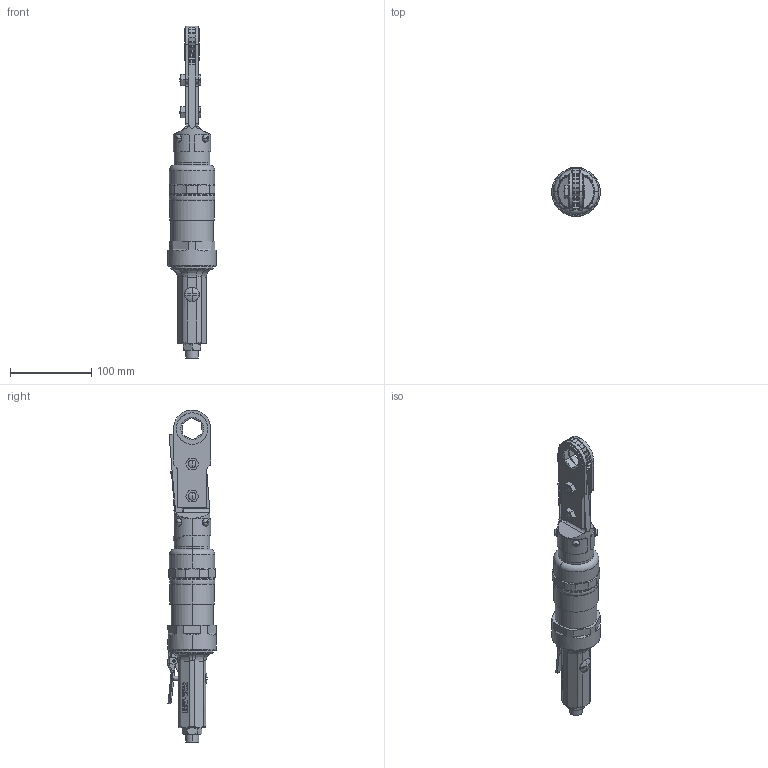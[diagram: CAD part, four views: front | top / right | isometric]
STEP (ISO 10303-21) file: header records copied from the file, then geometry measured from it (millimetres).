
FILE_DESCRIPTION (( 'STEP AP203' ), '1' );
FILE_NAME ('URW-12NA.STEP', '2006-02-15T00:23:09', ( '' ), ( '' ), 'SwSTEP 2.0', 'SolidWorks 2004073', '' );
FILE_SCHEMA (( 'CONFIG_CONTROL_DESIGN' ));
Length unit declared in the file: millimetre
Products named in the file (7): 2033811_蹬怮椔; 2166561_蹬怮椔; 2030251_蹬怮椔; URW-12NA; 2030112_蹬怮椔; 2031071_蹬怮椔; 2031001_蹬怮椔
Assembly tree (6 placements, depth 2):
  URW-12NA
    2030112_蹬怮椔
    2031071_蹬怮椔
    2166561_蹬怮椔
    2033811_蹬怮椔
    2031001_蹬怮椔
    2030251_蹬怮椔
Bounding box: 60 x 60.33 x 409.6 mm (x, y, z)
Volume: 555944.2 mm3; surface area: 84239.7 mm2
Topology: 6 solids, 6 shells, 745 faces, 2019 edges, 1325 vertices
Faces by surface type: plane 404, cylinder 237, bspline 41, torus 39, cone 18, sphere 6
Entity records: 31080 total; most frequent: CARTESIAN_POINT 11781, ORIENTED_EDGE 4038, DIRECTION 3691, EDGE_CURVE 2019, VERTEX_POINT 1325, AXIS2_PLACEMENT_3D 1277, VECTOR 1137, LINE 1137
